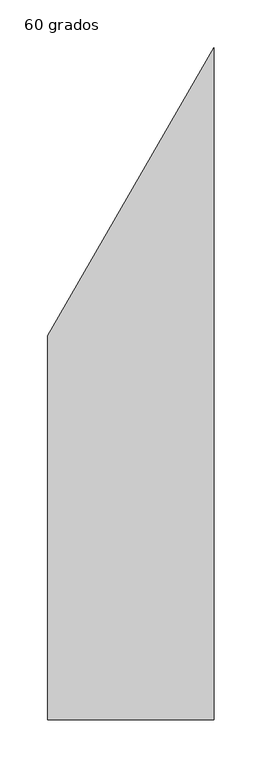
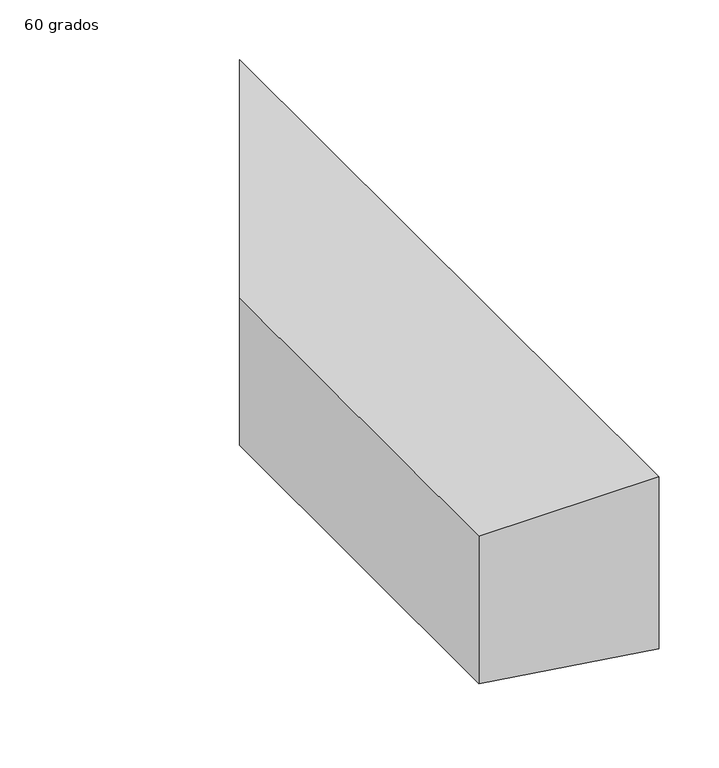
"""IFC4 building model written with IfcOpenShell, lengths in millimetres: duct fitting geometry, M_Transición rectangular - Ángulo : 60 grados."""

from ifc_helpers import new_model, si_unit, origin, place, context, project, spatial, faceted_brep, source, transform, mapped, element, save


def duct_fitting_60_grados_8ab5463e(model_context):
    return source(origin(), model_context, "Body", "Brep", [
        faceted_brep([(173.2050808, -200.0, 75.0), (173.2050808, -200.0, -100.0), (173.2050808, 500.0, -100.0), (173.2050808, 500.0, 75.0), (0.0, -200.0, 75.0), (0.0, 200.0, 75.0), (0.0, 200.0, -75.0), (0.0, -200.0, -75.0)], [[[0, 1, 2, 3]], [[4, 5, 6, 7]], [[4, 7, 1, 0]], [[7, 6, 2, 1]], [[6, 5, 3, 2]], [[5, 4, 0, 3]]]),
    ])


if __name__ == "__main__":
    model = new_model("IFC4")
    model_context = context("Model", 3, world=origin())
    ifc_project = project(units=[si_unit("LENGTHUNIT", "METRE", prefix="MILLI")], contexts=[model_context])
    site = spatial("IfcSite", under=ifc_project)
    building = spatial("IfcBuilding", under=site)
    placement = place(None, origin())
    duct_fitting_60_grados_shape = duct_fitting_60_grados_8ab5463e(model_context)
    element("IfcDuctFitting", 1, ObjectType="M_Transición rectangular - Ángulo : 60 grados", at=placement, inside=building, context=model_context, shape_type="MappedRepresentation", body=[
        mapped(duct_fitting_60_grados_shape, transform((0.0, 0.0, 0.0), x_axis=(1.0, 0.0, 0.0), y_axis=(0.0, 1.0, 0.0), z_axis=(0.0, 0.0, 1.0))),
    ])
    save(model, "model.ifc")
